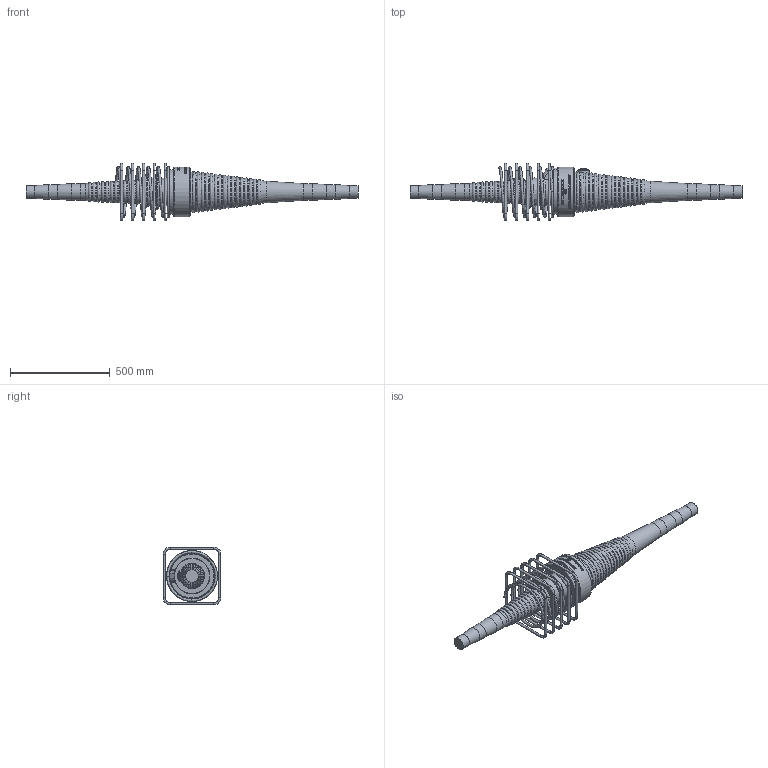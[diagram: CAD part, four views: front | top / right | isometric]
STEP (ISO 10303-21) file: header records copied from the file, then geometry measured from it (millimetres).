
FILE_DESCRIPTION(/* description */ (''),/* implementation_level */ '2;1');
FILE_NAME(/* name */ 'Z:\04 Publications\05 Give-out\BBR\6_3D_Models\BBR VT CONA CMI\BBR VT CONA CMI BT\00906\BBR VT CONA CMI BT 906_Couler K Assembly_CS-34,28.stp',/* time_stamp */ '2017-05-05T08:25:33+02:00',/* author */ ('IP'),/* organization */ (''),/* preprocessor_version */ 'ST-DEVELOPER v16.1',/* originating_system */ 'Autodesk Inventor 2016',/* authorisation */ '');
FILE_SCHEMA (('AUTOMOTIVE_DESIGN { 1 0 10303 214 3 1 1 }'));
Products named in the file (1): BBR VT CONA CMI BT 906_Couler K Assembly_CS-34,28
Bounding box: 1664.56 x 290 x 290 mm (x, y, z)
Volume: 22490788.6 mm3; surface area: 1113640.7 mm2
Topology: 6 solids, 6 shells, 980 faces, 2472 edges, 1564 vertices
Faces by surface type: bspline 426, plane 253, torus 130, cylinder 113, cone 34, sphere 24
Full cylindrical faces by diameter (mm): 12 x20, 34 x2, 57 x2, 64 x1, 64.013 x1, 74 x1, 74.013 x1, 84 x1, 84.013 x1, 177.282 x1, 178.841 x1, 240 x1, 246 x1, 250 x1
Entity records: 41899 total; most frequent: CARTESIAN_POINT 21287, ORIENTED_EDGE 4574, DIRECTION 3097, EDGE_CURVE 2287, VERTEX_POINT 1555, EDGE_LOOP 1228, AXIS2_PLACEMENT_3D 1116, FACE_OUTER_BOUND 980
